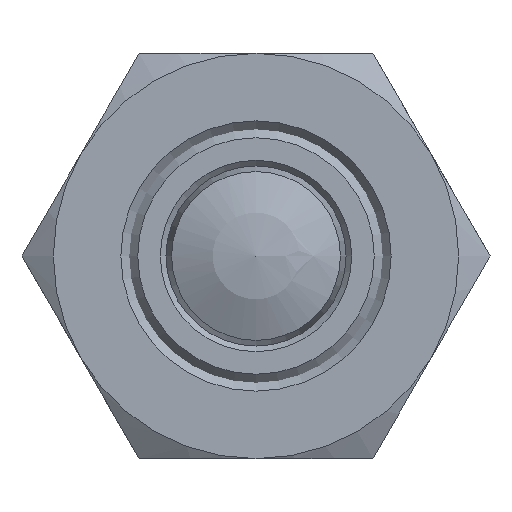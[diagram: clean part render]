
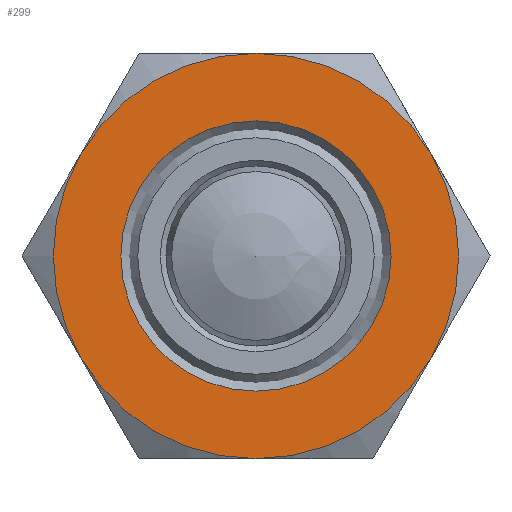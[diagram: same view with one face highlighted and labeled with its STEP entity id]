
A CAD part, front view. The second image highlights one B-rep face of the part: STEP entity #299.
In plain terms, the highlighted planar face has unit normal (0, -1, 0).
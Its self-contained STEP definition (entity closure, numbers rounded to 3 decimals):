
#299 = ADVANCED_FACE( '', ( #450, #451 ), #452, .F. );
#450 = FACE_BOUND( '', #604, .T. );
#451 = FACE_OUTER_BOUND( '', #605, .T. );
#452 = PLANE( '', #606 );
#604 = EDGE_LOOP( '', ( #952 ) );
#605 = EDGE_LOOP( '', ( #953, #954, #955, #956, #957, #958 ) );
#606 = AXIS2_PLACEMENT_3D( '', #959, #960, #961 );
#952 = ORIENTED_EDGE( '', *, *, #1063, .F. );
#953 = ORIENTED_EDGE( '', *, *, #1066, .T. );
#954 = ORIENTED_EDGE( '', *, *, #1067, .T. );
#955 = ORIENTED_EDGE( '', *, *, #1033, .T. );
#956 = ORIENTED_EDGE( '', *, *, #1058, .T. );
#957 = ORIENTED_EDGE( '', *, *, #1059, .T. );
#958 = ORIENTED_EDGE( '', *, *, #1060, .T. );
#959 = CARTESIAN_POINT( '', ( 18., 0., 0. ) );
#960 = DIRECTION( '', ( 0., 1., 0. ) );
#961 = DIRECTION( '', ( 0., 0., 1. ) );
#1033 = EDGE_CURVE( '', #1175, #1176, #1177, .T. );
#1058 = EDGE_CURVE( '', #1176, #1157, #1214, .T. );
#1059 = EDGE_CURVE( '', #1157, #1169, #1215, .T. );
#1060 = EDGE_CURVE( '', #1169, #1216, #1217, .T. );
#1063 = EDGE_CURVE( '', #1220, #1220, #1221, .T. );
#1066 = EDGE_CURVE( '', #1216, #1184, #1226, .T. );
#1067 = EDGE_CURVE( '', #1184, #1175, #1227, .T. );
#1157 = VERTEX_POINT( '', #1456 );
#1169 = VERTEX_POINT( '', #1498 );
#1175 = VERTEX_POINT( '', #1532 );
#1176 = VERTEX_POINT( '', #1533 );
#1177 = CIRCLE( '', #1534, 18. );
#1184 = VERTEX_POINT( '', #1556 );
#1214 = CIRCLE( '', #1672, 18. );
#1215 = CIRCLE( '', #1673, 18. );
#1216 = VERTEX_POINT( '', #1674 );
#1217 = CIRCLE( '', #1675, 18. );
#1220 = VERTEX_POINT( '', #1692 );
#1221 = CIRCLE( '', #1693, 12. );
#1226 = CIRCLE( '', #1698, 18. );
#1227 = CIRCLE( '', #1699, 18. );
#1456 = CARTESIAN_POINT( '', ( -18., 0., 0. ) );
#1498 = CARTESIAN_POINT( '', ( -9., 0., -15.588 ) );
#1532 = CARTESIAN_POINT( '', ( 9., 0., 15.588 ) );
#1533 = CARTESIAN_POINT( '', ( -9., 0., 15.588 ) );
#1534 = AXIS2_PLACEMENT_3D( '', #1793, #1794, #1795 );
#1556 = CARTESIAN_POINT( '', ( 18., 0., 0. ) );
#1672 = AXIS2_PLACEMENT_3D( '', #1820, #1821, #1822 );
#1673 = AXIS2_PLACEMENT_3D( '', #1823, #1824, #1825 );
#1674 = CARTESIAN_POINT( '', ( 9., 0., -15.588 ) );
#1675 = AXIS2_PLACEMENT_3D( '', #1826, #1827, #1828 );
#1692 = CARTESIAN_POINT( '', ( 0., 0., -12. ) );
#1693 = AXIS2_PLACEMENT_3D( '', #1829, #1830, #1831 );
#1698 = AXIS2_PLACEMENT_3D( '', #1838, #1839, #1840 );
#1699 = AXIS2_PLACEMENT_3D( '', #1841, #1842, #1843 );
#1793 = CARTESIAN_POINT( '', ( 0., 0., 0. ) );
#1794 = DIRECTION( '', ( 0., -1., 0. ) );
#1795 = DIRECTION( '', ( 0., 0., -1. ) );
#1820 = CARTESIAN_POINT( '', ( 0., 0., 0. ) );
#1821 = DIRECTION( '', ( 0., -1., 0. ) );
#1822 = DIRECTION( '', ( 0., 0., -1. ) );
#1823 = CARTESIAN_POINT( '', ( 0., 0., 0. ) );
#1824 = DIRECTION( '', ( 0., -1., 0. ) );
#1825 = DIRECTION( '', ( 0., 0., -1. ) );
#1826 = CARTESIAN_POINT( '', ( 0., 0., 0. ) );
#1827 = DIRECTION( '', ( 0., -1., 0. ) );
#1828 = DIRECTION( '', ( 0., 0., -1. ) );
#1829 = CARTESIAN_POINT( '', ( 0., 0., 0. ) );
#1830 = DIRECTION( '', ( 0., -1., 0. ) );
#1831 = DIRECTION( '', ( 0., 0., -1. ) );
#1838 = CARTESIAN_POINT( '', ( 0., 0., 0. ) );
#1839 = DIRECTION( '', ( 0., -1., 0. ) );
#1840 = DIRECTION( '', ( 0., 0., -1. ) );
#1841 = CARTESIAN_POINT( '', ( 0., 0., 0. ) );
#1842 = DIRECTION( '', ( 0., -1., 0. ) );
#1843 = DIRECTION( '', ( 0., 0., -1. ) );
